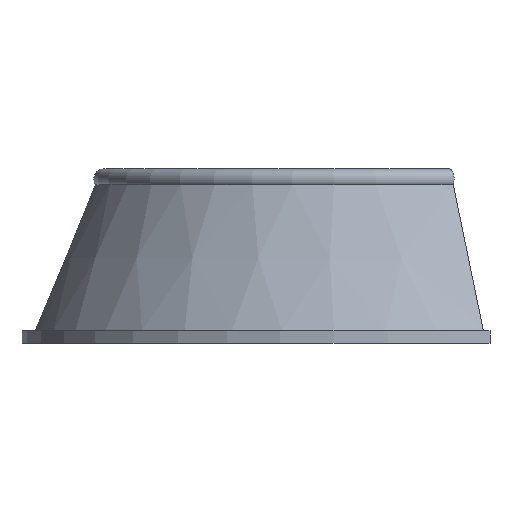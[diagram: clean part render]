
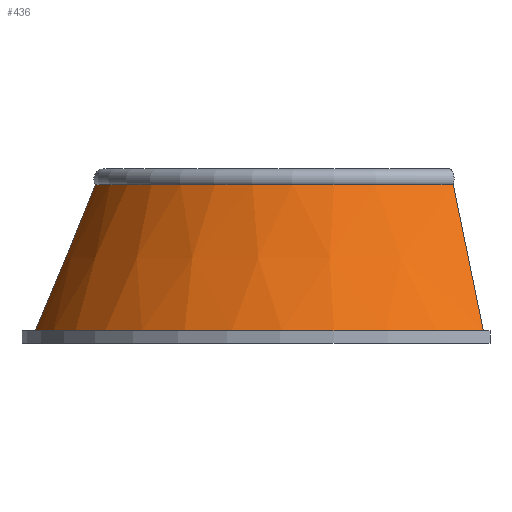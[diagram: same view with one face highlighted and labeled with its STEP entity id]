
A CAD part, left-side view. The second image highlights one B-rep face of the part: STEP entity #436.
In plain terms, the highlighted conical face has half-angle 22.416 degrees and reference radius 74 mm.
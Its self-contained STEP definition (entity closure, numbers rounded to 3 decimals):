
#33 = TOROIDAL_SURFACE('',#34,56.,2.5);
#34 = AXIS2_PLACEMENT_3D('',#35,#36,#37);
#35 = CARTESIAN_POINT('',(0.,0.,43.));
#36 = DIRECTION('',(0.,0.,1.));
#37 = DIRECTION('',(1.,0.,-0.));
#57 = VERTEX_POINT('',#58);
#58 = CARTESIAN_POINT('',(44.488,37.33,41.606
    ));
#73 = PLANE('',#74);
#74 = AXIS2_PLACEMENT_3D('',#75,#76,#77);
#75 = CARTESIAN_POINT('',(99.586,83.562,0.));
#76 = DIRECTION('',(0.643,-0.766,0.));
#77 = DIRECTION('',(-0.766,-0.643,0.));
#89 = EDGE_CURVE('',#57,#90,#92,.T.);
#90 = VERTEX_POINT('',#91);
#91 = CARTESIAN_POINT('',(-50.295,-29.038,
    41.606));
#92 = SURFACE_CURVE('',#93,(#98,#104),.PCURVE_S1.);
#93 = CIRCLE('',#94,58.075);
#94 = AXIS2_PLACEMENT_3D('',#95,#96,#97);
#95 = CARTESIAN_POINT('',(0.,0.,41.606));
#96 = DIRECTION('',(0.,0.,1.));
#97 = DIRECTION('',(0.,-1.,0.));
#98 = PCURVE('',#33,#99);
#99 = DEFINITIONAL_REPRESENTATION('',(#100),#103);
#100 = B_SPLINE_CURVE_WITH_KNOTS('',1,(#101,#102),.UNSPECIFIED.,.F.,.F.,
  (2,2),(2.269,5.236),.PIECEWISE_BEZIER_KNOTS.);
#101 = CARTESIAN_POINT('',(0.698,5.692));
#102 = CARTESIAN_POINT('',(3.665,5.692));
#103 = ( GEOMETRIC_REPRESENTATION_CONTEXT(2) 
PARAMETRIC_REPRESENTATION_CONTEXT() REPRESENTATION_CONTEXT('2D SPACE',''
  ) );
#104 = PCURVE('',#105,#110);
#105 = CONICAL_SURFACE('',#106,74.,0.391);
#106 = AXIS2_PLACEMENT_3D('',#107,#108,#109);
#107 = CARTESIAN_POINT('',(0.,0.,3.));
#108 = DIRECTION('',(-0.,-0.,-1.));
#109 = DIRECTION('',(1.,0.,-0.));
#110 = DEFINITIONAL_REPRESENTATION('',(#111),#115);
#111 = LINE('',#112,#113);
#112 = CARTESIAN_POINT('',(1.571,-38.606));
#113 = VECTOR('',#114,1.);
#114 = DIRECTION('',(-1.,-0.));
#115 = ( GEOMETRIC_REPRESENTATION_CONTEXT(2) 
PARAMETRIC_REPRESENTATION_CONTEXT() REPRESENTATION_CONTEXT('2D SPACE',''
  ) );
#132 = PLANE('',#133);
#133 = AXIS2_PLACEMENT_3D('',#134,#135,#136);
#134 = CARTESIAN_POINT('',(0.,0.,0.));
#135 = DIRECTION('',(0.5,-0.866,0.));
#136 = DIRECTION('',(-0.866,-0.5,0.));
#173 = EDGE_CURVE('',#90,#174,#176,.T.);
#174 = VERTEX_POINT('',#175);
#175 = CARTESIAN_POINT('',(-63.014,-36.381,6.));
#176 = SURFACE_CURVE('',#177,(#181,#187),.PCURVE_S1.);
#177 = LINE('',#178,#179);
#178 = CARTESIAN_POINT('',(0.,0.,182.394));
#179 = VECTOR('',#180,1.);
#180 = DIRECTION('',(-0.33,-0.191,-0.924));
#181 = PCURVE('',#132,#182);
#182 = DEFINITIONAL_REPRESENTATION('',(#183),#186);
#183 = B_SPLINE_CURVE_WITH_KNOTS('',1,(#184,#185),.UNSPECIFIED.,.F.,.F.,
  (2,2),(152.296,190.812),.PIECEWISE_BEZIER_KNOTS.);
#184 = CARTESIAN_POINT('',(58.075,-41.606));
#185 = CARTESIAN_POINT('',(72.763,-6.));
#186 = ( GEOMETRIC_REPRESENTATION_CONTEXT(2) 
PARAMETRIC_REPRESENTATION_CONTEXT() REPRESENTATION_CONTEXT('2D SPACE',''
  ) );
#187 = PCURVE('',#105,#188);
#188 = DEFINITIONAL_REPRESENTATION('',(#189),#192);
#189 = B_SPLINE_CURVE_WITH_KNOTS('',1,(#190,#191),.UNSPECIFIED.,.F.,.F.,
  (2,2),(152.296,190.812),.PIECEWISE_BEZIER_KNOTS.);
#190 = CARTESIAN_POINT('',(-3.665,-38.606));
#191 = CARTESIAN_POINT('',(-3.665,-3.));
#192 = ( GEOMETRIC_REPRESENTATION_CONTEXT(2) 
PARAMETRIC_REPRESENTATION_CONTEXT() REPRESENTATION_CONTEXT('2D SPACE',''
  ) );
#209 = PLANE('',#210);
#210 = AXIS2_PLACEMENT_3D('',#211,#212,#213);
#211 = CARTESIAN_POINT('',(0.,0.,6.));
#212 = DIRECTION('',(0.,0.,1.));
#213 = DIRECTION('',(1.,0.,0.));
#393 = VERTEX_POINT('',#394);
#394 = CARTESIAN_POINT('',(55.739,46.771,6.));
#415 = EDGE_CURVE('',#393,#174,#416,.T.);
#416 = SURFACE_CURVE('',#417,(#422,#429),.PCURVE_S1.);
#417 = CIRCLE('',#418,72.763);
#418 = AXIS2_PLACEMENT_3D('',#419,#420,#421);
#419 = CARTESIAN_POINT('',(0.,0.,6.));
#420 = DIRECTION('',(0.,0.,1.));
#421 = DIRECTION('',(1.,0.,-0.));
#422 = PCURVE('',#209,#423);
#423 = DEFINITIONAL_REPRESENTATION('',(#424),#428);
#424 = CIRCLE('',#425,72.763);
#425 = AXIS2_PLACEMENT_2D('',#426,#427);
#426 = CARTESIAN_POINT('',(0.,0.));
#427 = DIRECTION('',(1.,0.));
#428 = ( GEOMETRIC_REPRESENTATION_CONTEXT(2) 
PARAMETRIC_REPRESENTATION_CONTEXT() REPRESENTATION_CONTEXT('2D SPACE',''
  ) );
#429 = PCURVE('',#105,#430);
#430 = DEFINITIONAL_REPRESENTATION('',(#431),#435);
#431 = LINE('',#432,#433);
#432 = CARTESIAN_POINT('',(-0.,-3.));
#433 = VECTOR('',#434,1.);
#434 = DIRECTION('',(-1.,-0.));
#435 = ( GEOMETRIC_REPRESENTATION_CONTEXT(2) 
PARAMETRIC_REPRESENTATION_CONTEXT() REPRESENTATION_CONTEXT('2D SPACE',''
  ) );
#436 = ADVANCED_FACE('',(#437),#105,.T.);
#437 = FACE_BOUND('',#438,.T.);
#438 = EDGE_LOOP('',(#439,#458,#459,#460));
#439 = ORIENTED_EDGE('',*,*,#440,.T.);
#440 = EDGE_CURVE('',#57,#393,#441,.T.);
#441 = SURFACE_CURVE('',#442,(#446,#452),.PCURVE_S1.);
#442 = LINE('',#443,#444);
#443 = CARTESIAN_POINT('',(0.,0.,182.394));
#444 = VECTOR('',#445,1.);
#445 = DIRECTION('',(0.292,0.245,-0.924));
#446 = PCURVE('',#105,#447);
#447 = DEFINITIONAL_REPRESENTATION('',(#448),#451);
#448 = B_SPLINE_CURVE_WITH_KNOTS('',1,(#449,#450),.UNSPECIFIED.,.F.,.F.,
  (2,2),(152.296,190.812),.PIECEWISE_BEZIER_KNOTS.);
#449 = CARTESIAN_POINT('',(-0.698,-38.606));
#450 = CARTESIAN_POINT('',(-0.698,-3.));
#451 = ( GEOMETRIC_REPRESENTATION_CONTEXT(2) 
PARAMETRIC_REPRESENTATION_CONTEXT() REPRESENTATION_CONTEXT('2D SPACE',''
  ) );
#452 = PCURVE('',#73,#453);
#453 = DEFINITIONAL_REPRESENTATION('',(#454),#457);
#454 = B_SPLINE_CURVE_WITH_KNOTS('',1,(#455,#456),.UNSPECIFIED.,.F.,.F.,
  (2,2),(152.296,190.812),.PIECEWISE_BEZIER_KNOTS.);
#455 = CARTESIAN_POINT('',(71.925,-41.606));
#456 = CARTESIAN_POINT('',(57.238,-6.));
#457 = ( GEOMETRIC_REPRESENTATION_CONTEXT(2) 
PARAMETRIC_REPRESENTATION_CONTEXT() REPRESENTATION_CONTEXT('2D SPACE',''
  ) );
#458 = ORIENTED_EDGE('',*,*,#415,.T.);
#459 = ORIENTED_EDGE('',*,*,#173,.F.);
#460 = ORIENTED_EDGE('',*,*,#89,.F.);
